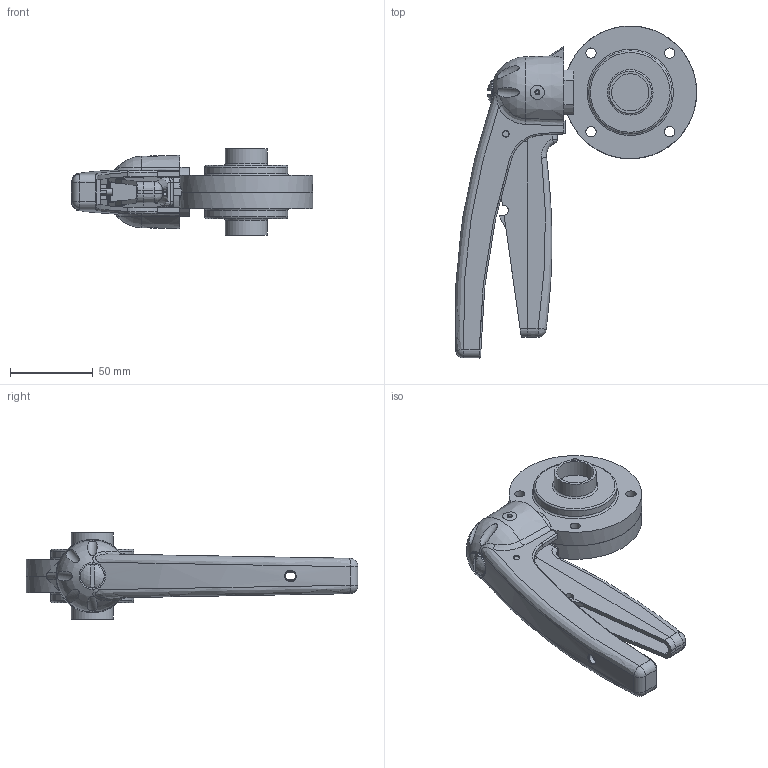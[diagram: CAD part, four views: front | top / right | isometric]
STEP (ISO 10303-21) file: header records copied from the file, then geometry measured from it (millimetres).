
FILE_DESCRIPTION(/* description */ ('VVF VALV.FARF.DN25.4 S/S EPDM 316 LEVA 5POS.'),/* implementation_level */ '2;1');
FILE_NAME(/* name */ 'C:\_DED_PWS\GIOR-G\DB\B\EBA\BEBAAL100BEAA-00^SAGOMA.step',/* time_stamp */ '2021-04-22T12:03:56+02:00',/* author */ (''),/* organization */ (''),/* preprocessor_version */ 'ST-DEVELOPER v18',/* originating_system */ 'Autodesk Inventor 2020',/* authorisation */ '');
FILE_SCHEMA (('CONFIG_CONTROL_DESIGN'));
Length unit declared in the file: millimetre
Products named in the file (3): BEBAAL100BEAA; MEZZO-COR-DN025.4-SALD-INCHES; Maniglia-5-posizioni-nuova-versione finale 01-2008- 25 - - 65
Assembly tree (3 placements, depth 2):
  BEBAAL100BEAA
    MEZZO-COR-DN025.4-SALD-INCHES  x2
    Maniglia-5-posizioni-nuova-versione finale 01-2008- 25 - - 65
Bounding box: 145.39 x 200 x 52 mm (x, y, z)
Volume: 228072.4 mm3; surface area: 86543.3 mm2
Topology: 3 solids, 4 shells, 442 faces, 1181 edges, 764 vertices
Faces by surface type: plane 198, cylinder 102, bspline 81, cone 28, sphere 18, torus 15
Full cylindrical faces by diameter (mm): 4 x3, 6 x2, 6.2 x8, 6.5 x1, 11.662 x2, 13 x1, 14.5 x1, 22.4 x2, 25.4 x2, 50 x2, 80 x2
Entity records: 22540 total; most frequent: CARTESIAN_POINT 12046, ORIENTED_EDGE 2248, DIRECTION 1908, EDGE_CURVE 1124, VERTEX_POINT 723, AXIS2_PLACEMENT_3D 688, LINE 532, VECTOR 532
